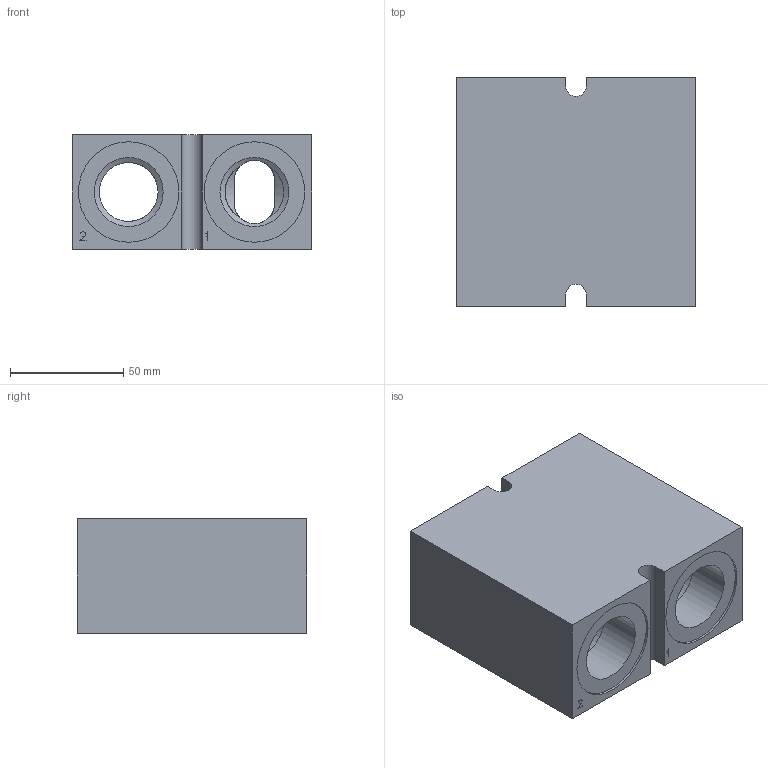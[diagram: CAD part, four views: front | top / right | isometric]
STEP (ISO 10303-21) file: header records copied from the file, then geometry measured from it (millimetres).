
FILE_DESCRIPTION( ( 'Unknown' ), '1' );
FILE_NAME( 'G:/Graphic Design/Graphic Design 2/Data Sheets/Delta Bodies/DRAWINGS/B-DSJE4.stp', 'Unknown', ( 'Unknown' ), ( 'Unknown' ), 'PSStep 16.0.42', 'Unknown', ' ' );
FILE_SCHEMA( ( 'AUTOMOTIVE_DESIGN { 1 0 10303 214 1 1 1 1 }' ) );
Length unit declared in the file: millimetre
Products named in the file (2): Assem1; B-DSJE4
Assembly tree (1 placements, depth 2):
  Assem1
    B-DSJE4
Bounding box: 106 x 101.6 x 50.8 mm (x, y, z)
Surface area: 61980.2 mm2 (no closed solid volume)
Topology: 0 solids, 149 shells, 149 faces, 758 edges, 726 vertices
Faces by surface type: plane 104, cylinder 32, cone 12, torus 1
Full cylindrical faces by diameter (mm): 0.2 x4, 25.4 x1, 26 x1, 28.651 x1, 30.5 x8, 31.806 x2, 44.45 x4, 48.514 x1
Entity records: 8980 total; most frequent: CARTESIAN_POINT 2925, DIRECTION 782, ORIENTED_EDGE 708, EDGE_CURVE 708, VERTEX_POINT 708, B_SPLINE_CURVE_WITH_KNOTS 346, AXIS2_PLACEMENT_3D 269, LINE 244
